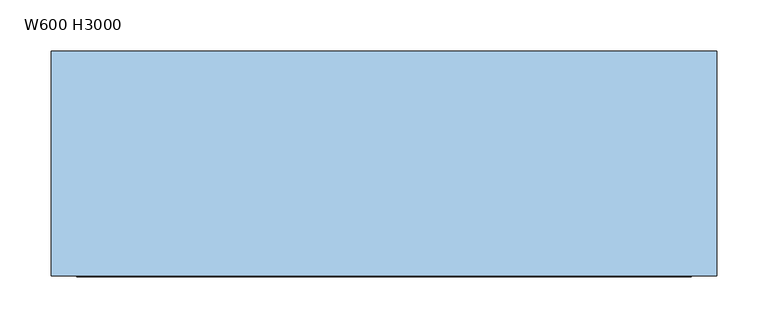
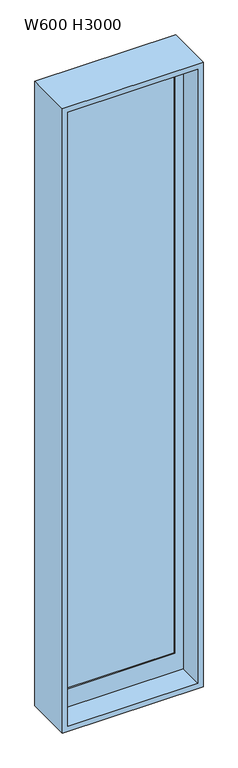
"""IFC4 building model written with IfcOpenShell, lengths in millimetres: window geometry, FIX窓 : W600 H3000."""

import ifcopenshell
import ifcopenshell.guid

model = None  # the IFC model being written
_history = None  # IfcOwnerHistory: only IFC2X3 demands one
_inside = {}  # id of a spatial element -> (the spatial element, [elements in it])
_under = {}  # id of a project, library or spatial element -> (it, [spatial elements below it])
_declared = {}  # id of a project -> (the project, [libraries it declares])
_typed = {}  # id of a type object -> (the type object, [elements of that type])
_made_of = {}  # id of a material, layer set ... -> (it, [elements and type objects made of it])


def new_model(schema):
    """Start an empty IFC model of exactly this schema.

    Asked for "IFC4X3", IfcOpenShell would pick the latest addendum, in which some entities
    have other attributes; the version numbers below select the first issue.
    IFC2X3 requires an IfcOwnerHistory on every rooted entity: one is made here for all.
    """
    global model, _history
    if schema == "IFC4X3":
        model = ifcopenshell.file(schema_version=(4, 3, 0, 0))
    else:
        model = ifcopenshell.file(schema=schema)
    _inside.clear()
    _under.clear()
    _declared.clear()
    _typed.clear()
    _made_of.clear()
    _history = None
    if model.schema == "IFC2X3":
        org = make("IfcOrganization", Name="unknown")
        user = make(
            "IfcPersonAndOrganization",
            ThePerson=make("IfcPerson", FamilyName="unknown"),
            TheOrganization=org,
        )
        app = make(
            "IfcApplication",
            ApplicationDeveloper=org,
            Version="unknown",
            ApplicationFullName="unknown",
            ApplicationIdentifier="unknown",
        )
        _history = make(
            "IfcOwnerHistory",
            OwningUser=user,
            OwningApplication=app,
            ChangeAction="ADDED",
            CreationDate=0,
        )
    return model


def make(cls, **values):
    """One entity of the class cls with the attributes given. An attribute that is None is left unset."""
    return model.create_entity(
        cls, **{name: value for name, value in values.items() if value is not None}
    )


def rooted(cls, **values):
    """An entity with a GlobalId (a new one), such as an element, a storey or a relation."""
    return make(cls, GlobalId=ifcopenshell.guid.new(), OwnerHistory=_history, **values)


def si_unit(unit_type, name, prefix=None):
    """IfcSIUnit, for example si_unit("LENGTHUNIT", "METRE", prefix="MILLI")."""
    return make("IfcSIUnit", UnitType=unit_type, Prefix=prefix, Name=name)


def assignment(units):
    """IfcUnitAssignment: the units of a project."""
    return None if units is None else make("IfcUnitAssignment", Units=units)


def point(xyz):
    """IfcCartesianPoint."""
    return None if xyz is None else make("IfcCartesianPoint", Coordinates=xyz)


def direction(xyz):
    """IfcDirection."""
    return None if xyz is None else make("IfcDirection", DirectionRatios=xyz)


def frame(location, z_axis=None, x_axis=None):
    """IfcAxis2Placement3D, a coordinate frame: its origin and axes. An axis left out is left unset."""
    return make(
        "IfcAxis2Placement3D",
        Location=point(location),
        Axis=direction(z_axis),
        RefDirection=direction(x_axis),
    )


def origin():
    """The frame at (0, 0, 0) with its axes left unset."""
    return frame((0.0, 0.0, 0.0))


def place(relative_to, where):
    """IfcLocalPlacement: puts the frame where relative to a parent placement (None: the world)."""
    return make(
        "IfcLocalPlacement", PlacementRelTo=relative_to, RelativePlacement=where
    )


def context(
    kind, dimensions, precision=None, world=None, true_north=None, identifier=None
):
    """IfcGeometricRepresentationContext, for example the 3D "Model" context."""
    return make(
        "IfcGeometricRepresentationContext",
        ContextIdentifier=identifier,
        ContextType=kind,
        CoordinateSpaceDimension=dimensions,
        Precision=precision,
        WorldCoordinateSystem=world,
        TrueNorth=true_north,
    )


def project(units=None, contexts=None):
    """IfcProject with its units and contexts."""
    return rooted(
        "IfcProject",
        Name="project",
        RepresentationContexts=contexts,
        UnitsInContext=assignment(units),
    )


def spatial(cls, under=None, at=None, **own):
    """A site, building, storey or space (cls), placed at a placement, below another one or the project."""
    s = rooted(cls, ObjectPlacement=at, **own)
    if under is not None:
        _under.setdefault(under.id(), (under, []))[1].append(s)
    return s


def polyline(points):
    """IfcPolyline through the points."""
    return make("IfcPolyline", Points=[point(p) for p in points])


def outline(outer, holes=None, kind="AREA"):
    """IfcArbitraryClosedProfileDef: a profile drawn as a closed curve; with holes, ...WithVoids."""
    if holes is None:
        return make("IfcArbitraryClosedProfileDef", ProfileType=kind, OuterCurve=outer)
    return make(
        "IfcArbitraryProfileDefWithVoids",
        ProfileType=kind,
        OuterCurve=outer,
        InnerCurves=holes,
    )


def extrude(swept, where, along, depth):
    """IfcExtrudedAreaSolid: the profile swept, set in the frame where, extruded along a direction by depth."""
    return make(
        "IfcExtrudedAreaSolid",
        SweptArea=swept,
        Position=where,
        ExtrudedDirection=direction(along),
        Depth=depth,
    )


def shape(context_of_items, identifier, shape_type, items):
    """IfcShapeRepresentation: the items that make up one representation, for example the "Body"."""
    return make(
        "IfcShapeRepresentation",
        ContextOfItems=context_of_items,
        RepresentationIdentifier=identifier,
        RepresentationType=shape_type,
        Items=items,
    )


def source(mapping_origin, context_of_items, identifier, shape_type, items):
    """IfcRepresentationMap: a shape defined once, which mapped items show again and again."""
    return make(
        "IfcRepresentationMap",
        MappingOrigin=mapping_origin,
        MappedRepresentation=shape(context_of_items, identifier, shape_type, items),
    )


def transform(
    local_origin,
    x_axis=None,
    y_axis=None,
    z_axis=None,
    scale=None,
    scale2=None,
    scale3=None,
    uniform=True,
):
    """IfcCartesianTransformationOperator3D, or its non-uniform kind. x_axis, y_axis, z_axis: its Axis1, 2, 3."""
    if uniform:
        return make(
            "IfcCartesianTransformationOperator3D",
            Axis1=direction(x_axis),
            Axis2=direction(y_axis),
            LocalOrigin=point(local_origin),
            Scale=scale,
            Axis3=direction(z_axis),
        )
    return make(
        "IfcCartesianTransformationOperator3DnonUniform",
        Axis1=direction(x_axis),
        Axis2=direction(y_axis),
        LocalOrigin=point(local_origin),
        Scale=scale,
        Axis3=direction(z_axis),
        Scale2=scale2,
        Scale3=scale3,
    )


def mapped(mapping_source, mapping_target):
    """IfcMappedItem: shows the shape of a source again, moved by a transform."""
    return make(
        "IfcMappedItem", MappingSource=mapping_source, MappingTarget=mapping_target
    )


def made_of(thing, what):
    """Note that an element or type object is made of a material, layer set ...; save() writes the relation."""
    if what is not None:
        _made_of.setdefault(what.id(), (what, []))[1].append(thing)
    return thing


def element(
    cls,
    number,
    at=None,
    inside=None,
    cuts=None,
    type_object=None,
    material=None,
    context=None,
    identifier="Body",
    shape_type=None,
    held_by="IfcProductDefinitionShape",
    body=None,
    shapes=None,
    **own,
):
    """One element of the class cls, such as IfcWall. Its Tag is "e" and its number.

    at: its placement. inside: the storey or other place that contains it. cuts: it is an
    opening in that element (IfcRelVoidsElement). A single representation is given by context,
    identifier, shape_type and body (its items); several are given by shapes. held_by: the class
    of the entity that holds the representations. save() writes the other relations.
    """
    e = rooted(cls, Tag="e%d" % number, ObjectPlacement=at, **own)
    if body is not None:
        shapes = [shape(context, identifier, shape_type, body)]
    if shapes is not None:
        e.Representation = make(held_by, Representations=shapes)
    if inside is not None:
        _inside.setdefault(inside.id(), (inside, []))[1].append(e)
    if cuts is not None:
        rooted(
            "IfcRelVoidsElement", RelatingBuildingElement=cuts, RelatedOpeningElement=e
        )
    if type_object is not None:
        _typed.setdefault(type_object.id(), (type_object, []))[1].append(e)
    return made_of(e, material)


def aggregate(whole, parts):
    """IfcRelAggregates: a whole, such as a stair, and the parts it consists of."""
    return rooted("IfcRelAggregates", RelatingObject=whole, RelatedObjects=parts)


def save(model, path):
    """Write the relations noted so far, then the file.

    IfcRelAggregates (storeys below a building ...), IfcRelContainedInSpatialStructure (elements
    in a storey), IfcRelDefinesByType, IfcRelAssociatesMaterial and IfcRelDeclares: one each for
    every whole, place, type object, material and project.
    """
    for whole, parts in _under.values():
        aggregate(whole, parts)
    for where, things in _inside.values():
        rooted(
            "IfcRelContainedInSpatialStructure",
            RelatedElements=things,
            RelatingStructure=where,
        )
    for kind, things in _typed.values():
        rooted("IfcRelDefinesByType", RelatedObjects=things, RelatingType=kind)
    for what, things in _made_of.values():
        rooted("IfcRelAssociatesMaterial", RelatedObjects=things, RelatingMaterial=what)
    for by, libraries in _declared.values():
        rooted("IfcRelDeclares", RelatingContext=by, RelatedDefinitions=libraries)
    model.write(path)


def w600_h3000_a9a4ebe6(model_context):
    return source(origin(), model_context, "Body", "SweptSolid", [
        extrude(outline(polyline([(335.0, 10.0), (-185.0, 10.0), (-185.0, 15.0), (335.0, 15.0), (335.0, 10.0)])), frame((0.0, 0.0, 990.0), z_axis=(0.0, 0.0, 1.0), x_axis=(1.0, 0.0, 0.0)), (0.0, 0.0, 1.0), 2870.0),
        extrude(outline(polyline([(3900.0, -225.0), (900.0, -225.0), (900.0, 375.0), (3900.0, 375.0), (3900.0, -225.0)]), holes=[polyline([(3860.0, -185.0), (3860.0, 335.0), (990.0, 335.0), (990.0, -185.0), (3860.0, -185.0)])]), frame((0.0, 5.0, 0.0), z_axis=(0.0, 1.0, 0.0), x_axis=(0.0, 0.0, 1.0)), (0.0, 0.0, 1.0), 30.0),
        extrude(outline(polyline([(3925.0, 400.0), (3925.0, -250.0), (875.0, -250.0), (875.0, 400.0), (3925.0, 400.0)]), holes=[polyline([(900.0, 375.0), (900.0, -225.0), (3900.0, -225.0), (3900.0, 375.0), (900.0, 375.0)])]), frame((0.0, -110.0, 0.0), z_axis=(0.0, 1.0, 0.0), x_axis=(0.0, 0.0, 1.0)), (0.0, 0.0, 1.0), 220.0),
    ])


if __name__ == "__main__":
    model = new_model("IFC4")
    model_context = context("Model", 3, world=origin())
    ifc_project = project(units=[si_unit("LENGTHUNIT", "METRE", prefix="MILLI")], contexts=[model_context])
    site = spatial("IfcSite", under=ifc_project)
    building = spatial("IfcBuilding", under=site)
    placement = place(None, origin())
    w600_h3000_shape = w600_h3000_a9a4ebe6(model_context)
    element("IfcWindow", 1, ObjectType="FIX窓 : W600 H3000", at=placement, inside=building, context=model_context, shape_type="MappedRepresentation", body=[
        mapped(w600_h3000_shape, transform((0.0, 0.0, 0.0), x_axis=(1.0, 0.0, 0.0), y_axis=(0.0, 1.0, 0.0), z_axis=(0.0, 0.0, 1.0))),
    ])
    save(model, "model.ifc")
